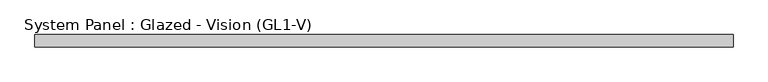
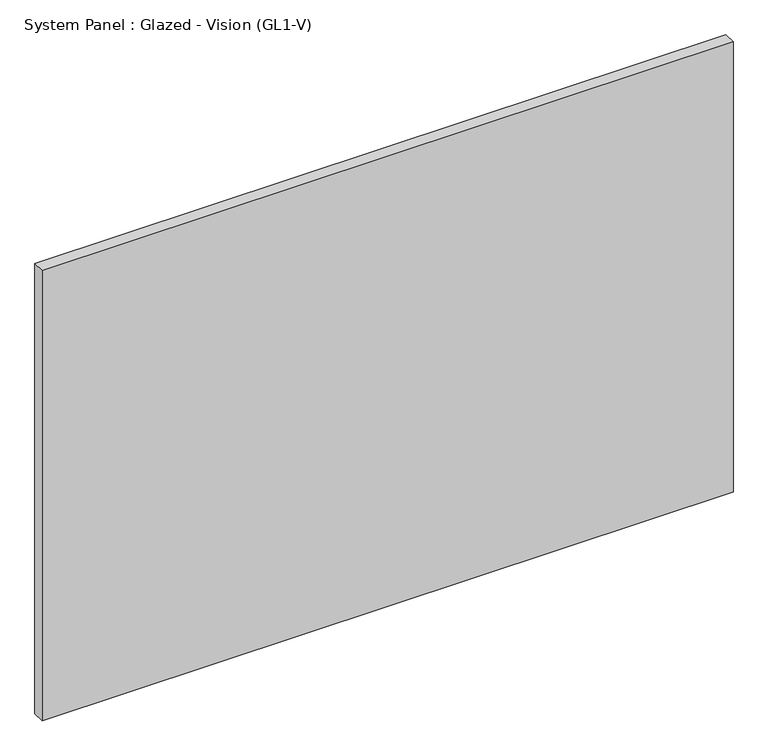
"""IFC4 building model written with IfcOpenShell, lengths in millimetres: plate geometry, System Panel : Glazed - Vision (GL1-V)."""

from ifc_helpers import new_model, si_unit, origin, origin_with_axes, place, context, project, spatial, polyline, outline, extrude, source, transform, mapped, element, save


def system_panel_glazed_vision_gl1_v_74089cc7(model_context):
    return source(origin(), model_context, "Body", "SweptSolid", [
        extrude(outline(polyline([(714.375, -25.4), (-714.375, -25.4), (-714.375, 0.0), (714.375, 0.0), (714.375, -25.4)])), origin_with_axes(), (0.0, 0.0, 1.0), 984.25),
    ])


if __name__ == "__main__":
    model = new_model("IFC4")
    model_context = context("Model", 3, world=origin())
    ifc_project = project(units=[si_unit("LENGTHUNIT", "METRE", prefix="MILLI")], contexts=[model_context])
    site = spatial("IfcSite", under=ifc_project)
    building = spatial("IfcBuilding", under=site)
    placement = place(None, origin())
    system_panel_glazed_vision_gl1_v_shape = system_panel_glazed_vision_gl1_v_74089cc7(model_context)
    element("IfcPlate", 1, ObjectType="System Panel : Glazed - Vision (GL1-V)", at=placement, inside=building, context=model_context, shape_type="MappedRepresentation", body=[
        mapped(system_panel_glazed_vision_gl1_v_shape, transform((0.0, 0.0, 0.0), x_axis=(1.0, 0.0, 0.0), y_axis=(0.0, 1.0, 0.0), z_axis=(0.0, 0.0, 1.0))),
    ])
    save(model, "model.ifc")
